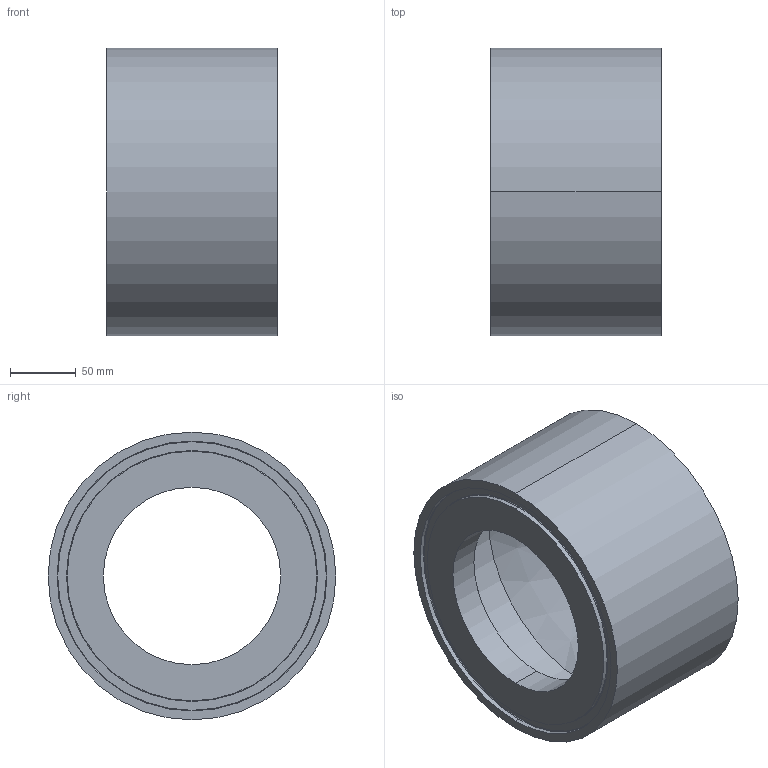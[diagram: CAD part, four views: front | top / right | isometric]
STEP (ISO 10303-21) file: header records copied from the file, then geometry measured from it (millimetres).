
FILE_DESCRIPTION (( 'STEP AP214' ), '1' );
FILE_NAME ('RVZ3139xD21A5A05500_DN150_DIN-RR-Nut_PS40.STEP', '2009-11-10T10:12:17', ( 'Eckhard Grams' ), ( 'AWP Kälte Klima Armaturen GmbH' ), 'SwSTEP 2.0', 'SolidWorks 2002296', '' );
FILE_SCHEMA (( 'AUTOMOTIVE_DESIGN' ));
Length unit declared in the file: millimetre
Products named in the file (2): RVZ3139xD21A5A05500_DN150_DIN-RR-Nut_PS40; Geh 31391K21-5034xx4_DN150_PS63_Geh 31391K21-5034554 RR-Nut
Assembly tree (1 placements, depth 2):
  RVZ3139xD21A5A05500_DN150_DIN-RR-Nut_PS40
    Geh 31391K21-5034xx4_DN150_PS63_Geh 31391K21-5034554 RR-Nut
Bounding box: 130 x 219 x 219 mm (x, y, z)
Volume: 1646836.8 mm3; surface area: 232949.9 mm2
Topology: 1 solids, 1 shells, 51 faces, 102 edges, 62 vertices
Faces by surface type: cylinder 26, torus 12, plane 11, cone 2
Entity records: 1427 total; most frequent: DIRECTION 286, CARTESIAN_POINT 219, ORIENTED_EDGE 204, AXIS2_PLACEMENT_3D 129, EDGE_CURVE 102, CIRCLE 74, VERTEX_POINT 62, EDGE_LOOP 62
